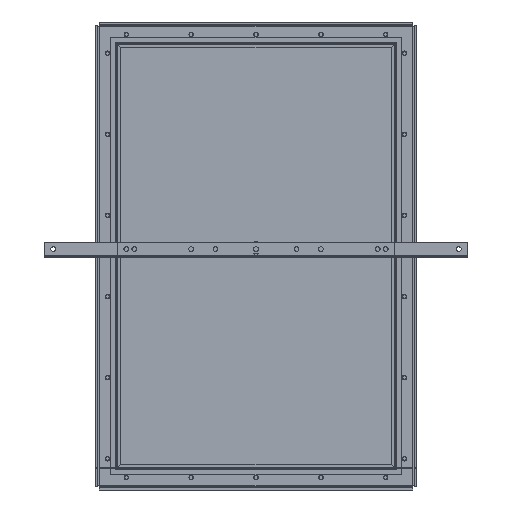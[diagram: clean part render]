
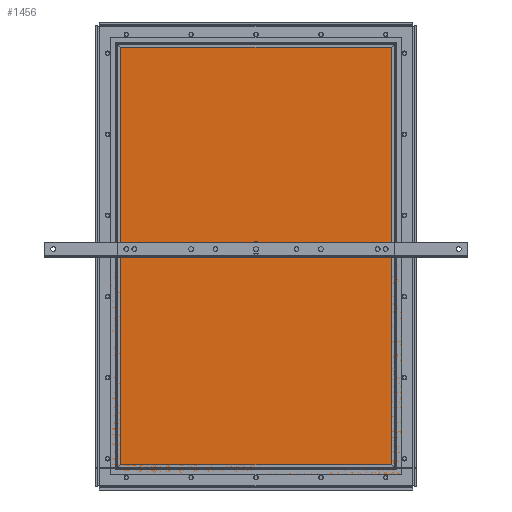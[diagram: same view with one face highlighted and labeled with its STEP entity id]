
A CAD part, front view. The second image highlights one B-rep face of the part: STEP entity #1456.
In plain terms, the highlighted planar face has unit normal (0, -1, 0).
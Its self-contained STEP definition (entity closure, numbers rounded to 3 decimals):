
#1456 = ADVANCED_FACE( '', ( #2559 ), #2560, .T. );
#2559 = FACE_OUTER_BOUND( '', #3908, .T. );
#2560 = PLANE( '', #3909 );
#3908 = EDGE_LOOP( '', ( #7091, #7092, #7093, #7094 ) );
#3909 = AXIS2_PLACEMENT_3D( '', #7095, #7096, #7097 );
#7091 = ORIENTED_EDGE( '', *, *, #8454, .T. );
#7092 = ORIENTED_EDGE( '', *, *, #8458, .T. );
#7093 = ORIENTED_EDGE( '', *, *, #8461, .T. );
#7094 = ORIENTED_EDGE( '', *, *, #8462, .T. );
#7095 = CARTESIAN_POINT( '', ( -252.413, 0., -379.413 ) );
#7096 = DIRECTION( '', ( 0., -1., 0. ) );
#7097 = DIRECTION( '', ( 0., 0., -1. ) );
#8454 = EDGE_CURVE( '', #9982, #9983, #9984, .T. );
#8458 = EDGE_CURVE( '', #9983, #9990, #9991, .T. );
#8461 = EDGE_CURVE( '', #9990, #9995, #9996, .T. );
#8462 = EDGE_CURVE( '', #9995, #9982, #9997, .T. );
#9982 = VERTEX_POINT( '', #13042 );
#9983 = VERTEX_POINT( '', #13043 );
#9984 = LINE( '', #13044, #13045 );
#9990 = VERTEX_POINT( '', #13054 );
#9991 = LINE( '', #13055, #13056 );
#9995 = VERTEX_POINT( '', #13062 );
#9996 = LINE( '', #13063, #13064 );
#9997 = LINE( '', #13065, #13066 );
#13042 = CARTESIAN_POINT( '', ( -252.413, 0., 379.413 ) );
#13043 = CARTESIAN_POINT( '', ( -252.413, 0., -379.413 ) );
#13044 = CARTESIAN_POINT( '', ( -252.413, 0., 379.413 ) );
#13045 = VECTOR( '', #14566, 1000. );
#13054 = CARTESIAN_POINT( '', ( 252.413, 0., -379.413 ) );
#13055 = CARTESIAN_POINT( '', ( -252.413, 0., -379.413 ) );
#13056 = VECTOR( '', #14570, 1000. );
#13062 = CARTESIAN_POINT( '', ( 252.413, 0., 379.413 ) );
#13063 = CARTESIAN_POINT( '', ( 252.413, 0., -379.413 ) );
#13064 = VECTOR( '', #14573, 1000. );
#13065 = CARTESIAN_POINT( '', ( 252.413, 0., 379.413 ) );
#13066 = VECTOR( '', #14574, 1000. );
#14566 = DIRECTION( '', ( 0., 0., -1. ) );
#14570 = DIRECTION( '', ( 1., 0., 0. ) );
#14573 = DIRECTION( '', ( 0., 0., 1. ) );
#14574 = DIRECTION( '', ( -1., 0., 0. ) );
